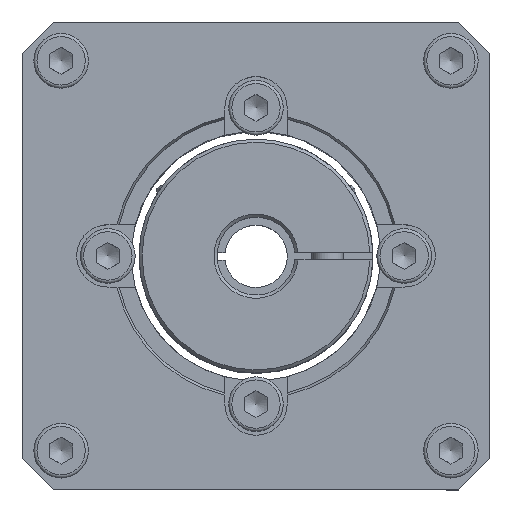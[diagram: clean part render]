
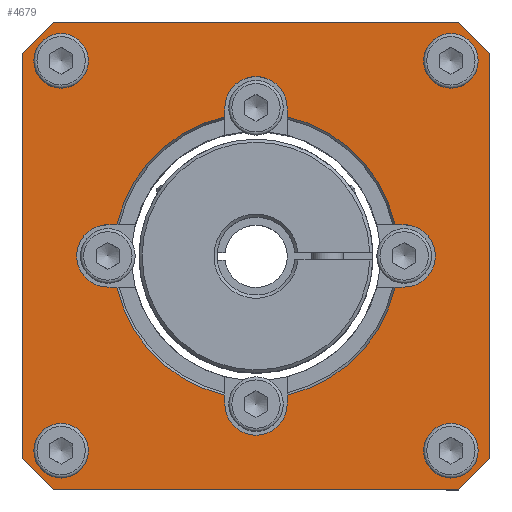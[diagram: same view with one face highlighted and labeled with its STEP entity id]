
A CAD part, top view. The second image highlights one B-rep face of the part: STEP entity #4679.
In plain terms, the highlighted planar face has unit normal (0, 0, 1).
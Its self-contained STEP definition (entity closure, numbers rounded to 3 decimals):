
#167=LINE('',#7527,#467);
#173=LINE('',#7540,#473);
#174=LINE('',#7542,#474);
#175=LINE('',#7544,#475);
#176=LINE('',#7546,#476);
#177=LINE('',#7548,#477);
#178=LINE('',#7550,#478);
#179=LINE('',#7552,#479);
#180=LINE('',#7553,#480);
#181=LINE('',#7563,#481);
#182=LINE('',#7567,#482);
#183=LINE('',#7571,#483);
#184=LINE('',#7575,#484);
#185=LINE('',#7579,#485);
#186=LINE('',#7583,#486);
#187=LINE('',#7587,#487);
#467=VECTOR('',#5868,1.154);
#473=VECTOR('',#5876,5.657);
#474=VECTOR('',#5877,52.);
#475=VECTOR('',#5878,5.657);
#476=VECTOR('',#5879,52.);
#477=VECTOR('',#5880,5.657);
#478=VECTOR('',#5881,52.);
#479=VECTOR('',#5882,5.657);
#480=VECTOR('',#5883,52.);
#481=VECTOR('',#5892,1.154);
#482=VECTOR('',#5895,1.154);
#483=VECTOR('',#5898,1.154);
#484=VECTOR('',#5901,1.154);
#485=VECTOR('',#5904,1.154);
#486=VECTOR('',#5907,1.154);
#487=VECTOR('',#5910,1.154);
#761=PLANE('',#5061);
#1009=FACE_BOUND('',#1537,.T.);
#1010=FACE_BOUND('',#1538,.T.);
#1011=FACE_BOUND('',#1539,.T.);
#1012=FACE_BOUND('',#1540,.T.);
#1013=FACE_BOUND('',#1541,.T.);
#1208=FACE_OUTER_BOUND('',#1536,.T.);
#1536=EDGE_LOOP('',(#3551,#3552,#3553,#3554,#3555,#3556,#3557,#3558));
#1537=EDGE_LOOP('',(#3559));
#1538=EDGE_LOOP('',(#3560));
#1539=EDGE_LOOP('',(#3561));
#1540=EDGE_LOOP('',(#3562));
#1541=EDGE_LOOP('',(#3563,#3564,#3565,#3566,#3567,#3568,#3569,#3570,#3571,
#3572,#3573,#3574,#3575,#3576,#3577,#3578));
#1903=CIRCLE('',#5058,18.289);
#1905=CIRCLE('',#5062,1.621);
#1906=CIRCLE('',#5063,1.621);
#1907=CIRCLE('',#5064,1.621);
#1908=CIRCLE('',#5065,1.621);
#1909=CIRCLE('',#5066,4.);
#1910=CIRCLE('',#5067,18.289);
#1911=CIRCLE('',#5068,4.);
#1912=CIRCLE('',#5069,18.289);
#1913=CIRCLE('',#5070,4.);
#1914=CIRCLE('',#5071,18.289);
#1915=CIRCLE('',#5072,4.);
#2224=VERTEX_POINT('',#7514);
#2225=VERTEX_POINT('',#7518);
#2227=VERTEX_POINT('',#7526);
#2232=VERTEX_POINT('',#7538);
#2233=VERTEX_POINT('',#7539);
#2234=VERTEX_POINT('',#7541);
#2235=VERTEX_POINT('',#7543);
#2236=VERTEX_POINT('',#7545);
#2237=VERTEX_POINT('',#7547);
#2238=VERTEX_POINT('',#7549);
#2239=VERTEX_POINT('',#7551);
#2240=VERTEX_POINT('',#7554);
#2241=VERTEX_POINT('',#7556);
#2242=VERTEX_POINT('',#7558);
#2243=VERTEX_POINT('',#7560);
#2244=VERTEX_POINT('',#7562);
#2245=VERTEX_POINT('',#7564);
#2246=VERTEX_POINT('',#7566);
#2247=VERTEX_POINT('',#7568);
#2248=VERTEX_POINT('',#7570);
#2249=VERTEX_POINT('',#7572);
#2250=VERTEX_POINT('',#7574);
#2251=VERTEX_POINT('',#7576);
#2252=VERTEX_POINT('',#7578);
#2253=VERTEX_POINT('',#7580);
#2254=VERTEX_POINT('',#7582);
#2255=VERTEX_POINT('',#7584);
#2256=VERTEX_POINT('',#7586);
#2732=EDGE_CURVE('',#2224,#2225,#1903,.T.);
#2735=EDGE_CURVE('',#2227,#2225,#167,.T.);
#2741=EDGE_CURVE('',#2232,#2233,#173,.T.);
#2742=EDGE_CURVE('',#2234,#2232,#174,.T.);
#2743=EDGE_CURVE('',#2235,#2234,#175,.T.);
#2744=EDGE_CURVE('',#2236,#2235,#176,.T.);
#2745=EDGE_CURVE('',#2237,#2236,#177,.T.);
#2746=EDGE_CURVE('',#2238,#2237,#178,.T.);
#2747=EDGE_CURVE('',#2239,#2238,#179,.T.);
#2748=EDGE_CURVE('',#2233,#2239,#180,.T.);
#2749=EDGE_CURVE('',#2240,#2240,#1905,.T.);
#2750=EDGE_CURVE('',#2241,#2241,#1906,.T.);
#2751=EDGE_CURVE('',#2242,#2242,#1907,.T.);
#2752=EDGE_CURVE('',#2243,#2243,#1908,.T.);
#2753=EDGE_CURVE('',#2224,#2244,#181,.T.);
#2754=EDGE_CURVE('',#2244,#2245,#1909,.T.);
#2755=EDGE_CURVE('',#2245,#2246,#182,.T.);
#2756=EDGE_CURVE('',#2247,#2246,#1910,.T.);
#2757=EDGE_CURVE('',#2247,#2248,#183,.T.);
#2758=EDGE_CURVE('',#2248,#2249,#1911,.T.);
#2759=EDGE_CURVE('',#2249,#2250,#184,.T.);
#2760=EDGE_CURVE('',#2251,#2250,#1912,.T.);
#2761=EDGE_CURVE('',#2251,#2252,#185,.T.);
#2762=EDGE_CURVE('',#2252,#2253,#1913,.T.);
#2763=EDGE_CURVE('',#2253,#2254,#186,.T.);
#2764=EDGE_CURVE('',#2255,#2254,#1914,.T.);
#2765=EDGE_CURVE('',#2255,#2256,#187,.T.);
#2766=EDGE_CURVE('',#2256,#2227,#1915,.T.);
#3551=ORIENTED_EDGE('',*,*,#2741,.F.);
#3552=ORIENTED_EDGE('',*,*,#2742,.F.);
#3553=ORIENTED_EDGE('',*,*,#2743,.F.);
#3554=ORIENTED_EDGE('',*,*,#2744,.F.);
#3555=ORIENTED_EDGE('',*,*,#2745,.F.);
#3556=ORIENTED_EDGE('',*,*,#2746,.F.);
#3557=ORIENTED_EDGE('',*,*,#2747,.F.);
#3558=ORIENTED_EDGE('',*,*,#2748,.F.);
#3559=ORIENTED_EDGE('',*,*,#2749,.T.);
#3560=ORIENTED_EDGE('',*,*,#2750,.T.);
#3561=ORIENTED_EDGE('',*,*,#2751,.T.);
#3562=ORIENTED_EDGE('',*,*,#2752,.T.);
#3563=ORIENTED_EDGE('',*,*,#2732,.F.);
#3564=ORIENTED_EDGE('',*,*,#2753,.T.);
#3565=ORIENTED_EDGE('',*,*,#2754,.T.);
#3566=ORIENTED_EDGE('',*,*,#2755,.T.);
#3567=ORIENTED_EDGE('',*,*,#2756,.F.);
#3568=ORIENTED_EDGE('',*,*,#2757,.T.);
#3569=ORIENTED_EDGE('',*,*,#2758,.T.);
#3570=ORIENTED_EDGE('',*,*,#2759,.T.);
#3571=ORIENTED_EDGE('',*,*,#2760,.F.);
#3572=ORIENTED_EDGE('',*,*,#2761,.T.);
#3573=ORIENTED_EDGE('',*,*,#2762,.T.);
#3574=ORIENTED_EDGE('',*,*,#2763,.T.);
#3575=ORIENTED_EDGE('',*,*,#2764,.F.);
#3576=ORIENTED_EDGE('',*,*,#2765,.T.);
#3577=ORIENTED_EDGE('',*,*,#2766,.T.);
#3578=ORIENTED_EDGE('',*,*,#2735,.T.);
#4679=ADVANCED_FACE('',(#1208,#1009,#1010,#1011,#1012,#1013),#761,.T.);
#5058=AXIS2_PLACEMENT_3D('',#7519,#5862,#5863);
#5061=AXIS2_PLACEMENT_3D('',#7537,#5874,#5875);
#5062=AXIS2_PLACEMENT_3D('',#7555,#5884,#5885);
#5063=AXIS2_PLACEMENT_3D('',#7557,#5886,#5887);
#5064=AXIS2_PLACEMENT_3D('',#7559,#5888,#5889);
#5065=AXIS2_PLACEMENT_3D('',#7561,#5890,#5891);
#5066=AXIS2_PLACEMENT_3D('',#7565,#5893,#5894);
#5067=AXIS2_PLACEMENT_3D('',#7569,#5896,#5897);
#5068=AXIS2_PLACEMENT_3D('',#7573,#5899,#5900);
#5069=AXIS2_PLACEMENT_3D('',#7577,#5902,#5903);
#5070=AXIS2_PLACEMENT_3D('',#7581,#5905,#5906);
#5071=AXIS2_PLACEMENT_3D('',#7585,#5908,#5909);
#5072=AXIS2_PLACEMENT_3D('',#7588,#5911,#5912);
#5862=DIRECTION('center_axis',(0.,0.,1.));
#5863=DIRECTION('ref_axis',(1.,0.,0.));
#5868=DIRECTION('',(-1.,0.,0.));
#5874=DIRECTION('center_axis',(0.,0.,1.));
#5875=DIRECTION('ref_axis',(1.,0.,0.));
#5876=DIRECTION('',(0.707,-0.707,0.));
#5877=DIRECTION('',(1.,0.,0.));
#5878=DIRECTION('',(0.707,0.707,0.));
#5879=DIRECTION('',(0.,1.,0.));
#5880=DIRECTION('',(-0.707,0.707,0.));
#5881=DIRECTION('',(-1.,0.,0.));
#5882=DIRECTION('',(-0.707,-0.707,0.));
#5883=DIRECTION('',(0.,-1.,0.));
#5884=DIRECTION('center_axis',(0.,0.,-1.));
#5885=DIRECTION('ref_axis',(1.,0.,0.));
#5886=DIRECTION('center_axis',(0.,0.,-1.));
#5887=DIRECTION('ref_axis',(1.,0.,0.));
#5888=DIRECTION('center_axis',(0.,0.,-1.));
#5889=DIRECTION('ref_axis',(1.,0.,0.));
#5890=DIRECTION('center_axis',(0.,0.,-1.));
#5891=DIRECTION('ref_axis',(1.,0.,0.));
#5892=DIRECTION('',(0.,-1.,0.));
#5893=DIRECTION('center_axis',(0.,0.,-1.));
#5894=DIRECTION('ref_axis',(-1.,0.,0.));
#5895=DIRECTION('',(0.,1.,0.));
#5896=DIRECTION('center_axis',(0.,0.,1.));
#5897=DIRECTION('ref_axis',(-1.,0.,0.));
#5898=DIRECTION('',(-1.,0.,0.));
#5899=DIRECTION('center_axis',(0.,0.,-1.));
#5900=DIRECTION('ref_axis',(0.,1.,0.));
#5901=DIRECTION('',(1.,0.,0.));
#5902=DIRECTION('center_axis',(0.,0.,1.));
#5903=DIRECTION('ref_axis',(-1.,0.,0.));
#5904=DIRECTION('',(0.,1.,0.));
#5905=DIRECTION('center_axis',(0.,0.,-1.));
#5906=DIRECTION('ref_axis',(1.,0.,0.));
#5907=DIRECTION('',(0.,-1.,0.));
#5908=DIRECTION('center_axis',(0.,0.,1.));
#5909=DIRECTION('ref_axis',(1.,0.,0.));
#5910=DIRECTION('',(1.,0.,0.));
#5911=DIRECTION('center_axis',(0.,0.,-1.));
#5912=DIRECTION('ref_axis',(0.,-1.,0.));
#7514=CARTESIAN_POINT('',(4.,-17.846,15.4));
#7518=CARTESIAN_POINT('',(17.846,-4.,15.4));
#7519=CARTESIAN_POINT('Origin',(0.,0.,15.4));
#7526=CARTESIAN_POINT('',(19.,-4.,15.4));
#7527=CARTESIAN_POINT('',(7.746,-4.,15.4));
#7537=CARTESIAN_POINT('Origin',(0.,0.,
15.4));
#7538=CARTESIAN_POINT('',(26.,30.,15.4));
#7539=CARTESIAN_POINT('',(30.,26.,15.4));
#7540=CARTESIAN_POINT('',(28.,28.,15.4));
#7541=CARTESIAN_POINT('',(-26.,30.,15.4));
#7542=CARTESIAN_POINT('',(-30.,30.,15.4));
#7543=CARTESIAN_POINT('',(-30.,26.,15.4));
#7544=CARTESIAN_POINT('',(-28.,28.,15.4));
#7545=CARTESIAN_POINT('',(-30.,-26.,15.4));
#7546=CARTESIAN_POINT('',(-30.,-30.,15.4));
#7547=CARTESIAN_POINT('',(-26.,-30.,15.4));
#7548=CARTESIAN_POINT('',(-28.,-28.,15.4));
#7549=CARTESIAN_POINT('',(26.,-30.,15.4));
#7550=CARTESIAN_POINT('',(30.,-30.,15.4));
#7551=CARTESIAN_POINT('',(30.,-26.,15.4));
#7552=CARTESIAN_POINT('',(28.,-28.,15.4));
#7553=CARTESIAN_POINT('',(30.,30.,15.4));
#7554=CARTESIAN_POINT('',(26.621,-25.,15.4));
#7555=CARTESIAN_POINT('Origin',(25.,-25.,15.4));
#7556=CARTESIAN_POINT('',(-23.379,-25.,15.4));
#7557=CARTESIAN_POINT('Origin',(-25.,-25.,15.4));
#7558=CARTESIAN_POINT('',(-23.379,25.,15.4));
#7559=CARTESIAN_POINT('Origin',(-25.,25.,15.4));
#7560=CARTESIAN_POINT('',(26.621,25.,15.4));
#7561=CARTESIAN_POINT('Origin',(25.,25.,15.4));
#7562=CARTESIAN_POINT('',(4.,-19.,15.4));
#7563=CARTESIAN_POINT('',(4.,-9.5,15.4));
#7564=CARTESIAN_POINT('',(-4.,-19.,15.4));
#7565=CARTESIAN_POINT('Origin',(0.,-19.,15.4));
#7566=CARTESIAN_POINT('',(-4.,-17.846,15.4));
#7567=CARTESIAN_POINT('',(-4.,-7.746,15.4));
#7568=CARTESIAN_POINT('',(-17.846,-4.,15.4));
#7569=CARTESIAN_POINT('Origin',(0.,0.,15.4));
#7570=CARTESIAN_POINT('',(-19.,-4.,15.4));
#7571=CARTESIAN_POINT('',(-9.5,-4.,15.4));
#7572=CARTESIAN_POINT('',(-19.,4.,15.4));
#7573=CARTESIAN_POINT('Origin',(-19.,0.,15.4));
#7574=CARTESIAN_POINT('',(-17.846,4.,15.4));
#7575=CARTESIAN_POINT('',(-7.746,4.,15.4));
#7576=CARTESIAN_POINT('',(-4.,17.846,15.4));
#7577=CARTESIAN_POINT('Origin',(0.,0.,15.4));
#7578=CARTESIAN_POINT('',(-4.,19.,15.4));
#7579=CARTESIAN_POINT('',(-4.,9.5,15.4));
#7580=CARTESIAN_POINT('',(4.,19.,15.4));
#7581=CARTESIAN_POINT('Origin',(0.,19.,15.4));
#7582=CARTESIAN_POINT('',(4.,17.846,15.4));
#7583=CARTESIAN_POINT('',(4.,7.746,15.4));
#7584=CARTESIAN_POINT('',(17.846,4.,15.4));
#7585=CARTESIAN_POINT('Origin',(0.,0.,15.4));
#7586=CARTESIAN_POINT('',(19.,4.,15.4));
#7587=CARTESIAN_POINT('',(9.5,4.,15.4));
#7588=CARTESIAN_POINT('Origin',(19.,0.,15.4));
